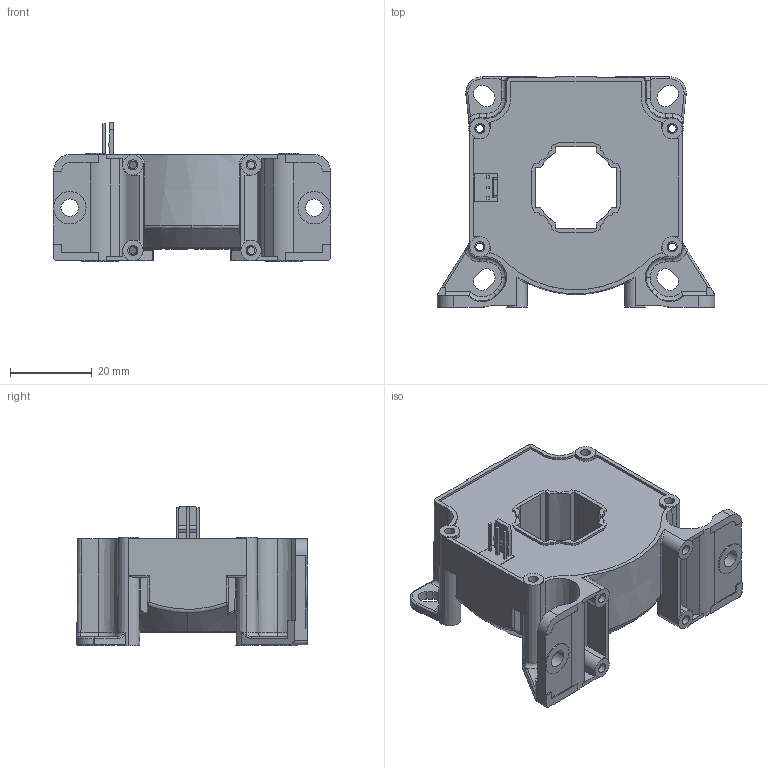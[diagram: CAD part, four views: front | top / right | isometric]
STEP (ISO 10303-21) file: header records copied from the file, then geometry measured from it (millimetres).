
FILE_DESCRIPTION(('CoCreate Modeling STEP Export'),'2;1');
FILE_NAME('LF 305-S.stp','2009-08-18T10:46:02',(''),(''),'CoCreate Modeling STEP processor for AP214 (Solid Model)','CoCreate Modeling 16.00A 16-Aug-2008 (C) Parametric Technology GmbH','');
FILE_SCHEMA(('AUTOMOTIVE_DESIGN { 1 0 10303 214 1 1 1 1 }'));
Products named in the file (1): LF305-S
Bounding box: 68 x 56.53 x 34.3 mm (x, y, z)
Volume: 15700.5 mm3; surface area: 24487.1 mm2
Topology: 1 solids, 2 shells, 1597 faces, 4412 edges, 2899 vertices
Faces by surface type: plane 1166, cylinder 174, bspline 102, cone 93, extrusion 35, torus 27
Entity records: 65403 total; most frequent: CARTESIAN_POINT 26499, ORIENTED_EDGE 8820, DIRECTION 6724, EDGE_CURVE 4410, VECTOR 3330, LINE 3295, VERTEX_POINT 2899, EDGE_LOOP 1703
